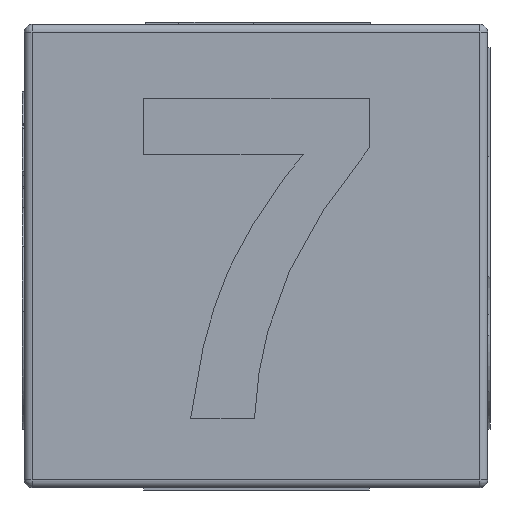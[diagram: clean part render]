
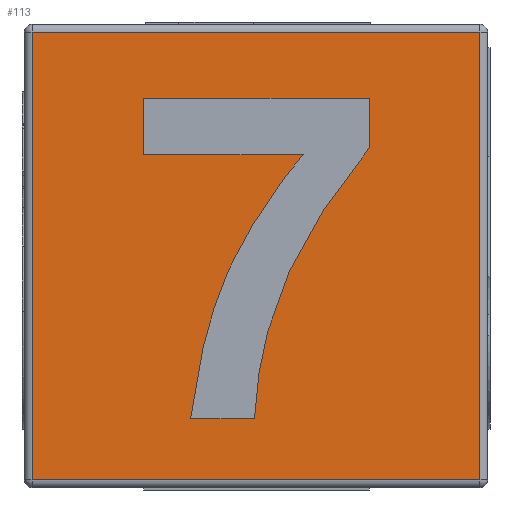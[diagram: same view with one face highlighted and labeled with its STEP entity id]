
A CAD part, left-side view. The second image highlights one B-rep face of the part: STEP entity #113.
In plain terms, the highlighted planar face has unit normal (-1, 0, 0).
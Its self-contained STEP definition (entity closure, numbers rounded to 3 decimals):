
#113 = ADVANCED_FACE('',(#114),#128,.F.);
#114 = FACE_BOUND('',#115,.F.);
#115 = EDGE_LOOP('',(#116,#151,#179,#207));
#116 = ORIENTED_EDGE('',*,*,#117,.F.);
#117 = EDGE_CURVE('',#118,#120,#122,.T.);
#118 = VERTEX_POINT('',#119);
#119 = CARTESIAN_POINT('',(-14.85,-14.35,-14.35));
#120 = VERTEX_POINT('',#121);
#121 = CARTESIAN_POINT('',(-14.85,-14.35,14.35));
#122 = SURFACE_CURVE('',#123,(#127,#139),.PCURVE_S1.);
#123 = LINE('',#124,#125);
#124 = CARTESIAN_POINT('',(-14.85,-14.35,-14.85));
#125 = VECTOR('',#126,1.);
#126 = DIRECTION('',(0.,0.,1.));
#127 = PCURVE('',#128,#133);
#128 = PLANE('',#129);
#129 = AXIS2_PLACEMENT_3D('',#130,#131,#132);
#130 = CARTESIAN_POINT('',(-14.85,-14.85,-14.85));
#131 = DIRECTION('',(1.,0.,0.));
#132 = DIRECTION('',(0.,0.,1.));
#133 = DEFINITIONAL_REPRESENTATION('',(#134),#138);
#134 = LINE('',#135,#136);
#135 = CARTESIAN_POINT('',(0.,-0.5));
#136 = VECTOR('',#137,1.);
#137 = DIRECTION('',(1.,0.));
#138 = ( GEOMETRIC_REPRESENTATION_CONTEXT(2) 
PARAMETRIC_REPRESENTATION_CONTEXT() REPRESENTATION_CONTEXT('2D SPACE',''
  ) );
#139 = PCURVE('',#140,#145);
#140 = CYLINDRICAL_SURFACE('',#141,0.5);
#141 = AXIS2_PLACEMENT_3D('',#142,#143,#144);
#142 = CARTESIAN_POINT('',(-14.35,-14.35,-14.85));
#143 = DIRECTION('',(0.,0.,1.));
#144 = DIRECTION('',(-1.,-0.,0.));
#145 = DEFINITIONAL_REPRESENTATION('',(#146),#150);
#146 = LINE('',#147,#148);
#147 = CARTESIAN_POINT('',(0.,0.));
#148 = VECTOR('',#149,1.);
#149 = DIRECTION('',(0.,1.));
#150 = ( GEOMETRIC_REPRESENTATION_CONTEXT(2) 
PARAMETRIC_REPRESENTATION_CONTEXT() REPRESENTATION_CONTEXT('2D SPACE',''
  ) );
#151 = ORIENTED_EDGE('',*,*,#152,.T.);
#152 = EDGE_CURVE('',#118,#153,#155,.T.);
#153 = VERTEX_POINT('',#154);
#154 = CARTESIAN_POINT('',(-14.85,14.35,-14.35));
#155 = SURFACE_CURVE('',#156,(#160,#167),.PCURVE_S1.);
#156 = LINE('',#157,#158);
#157 = CARTESIAN_POINT('',(-14.85,-14.85,-14.35));
#158 = VECTOR('',#159,1.);
#159 = DIRECTION('',(0.,1.,0.));
#160 = PCURVE('',#128,#161);
#161 = DEFINITIONAL_REPRESENTATION('',(#162),#166);
#162 = LINE('',#163,#164);
#163 = CARTESIAN_POINT('',(0.5,0.));
#164 = VECTOR('',#165,1.);
#165 = DIRECTION('',(0.,-1.));
#166 = ( GEOMETRIC_REPRESENTATION_CONTEXT(2) 
PARAMETRIC_REPRESENTATION_CONTEXT() REPRESENTATION_CONTEXT('2D SPACE',''
  ) );
#167 = PCURVE('',#168,#173);
#168 = CYLINDRICAL_SURFACE('',#169,0.5);
#169 = AXIS2_PLACEMENT_3D('',#170,#171,#172);
#170 = CARTESIAN_POINT('',(-14.35,-14.85,-14.35));
#171 = DIRECTION('',(0.,1.,0.));
#172 = DIRECTION('',(-1.,0.,0.));
#173 = DEFINITIONAL_REPRESENTATION('',(#174),#178);
#174 = LINE('',#175,#176);
#175 = CARTESIAN_POINT('',(-0.,0.));
#176 = VECTOR('',#177,1.);
#177 = DIRECTION('',(-0.,1.));
#178 = ( GEOMETRIC_REPRESENTATION_CONTEXT(2) 
PARAMETRIC_REPRESENTATION_CONTEXT() REPRESENTATION_CONTEXT('2D SPACE',''
  ) );
#179 = ORIENTED_EDGE('',*,*,#180,.T.);
#180 = EDGE_CURVE('',#153,#181,#183,.T.);
#181 = VERTEX_POINT('',#182);
#182 = CARTESIAN_POINT('',(-14.85,14.35,14.35));
#183 = SURFACE_CURVE('',#184,(#188,#195),.PCURVE_S1.);
#184 = LINE('',#185,#186);
#185 = CARTESIAN_POINT('',(-14.85,14.35,-14.85));
#186 = VECTOR('',#187,1.);
#187 = DIRECTION('',(0.,0.,1.));
#188 = PCURVE('',#128,#189);
#189 = DEFINITIONAL_REPRESENTATION('',(#190),#194);
#190 = LINE('',#191,#192);
#191 = CARTESIAN_POINT('',(0.,-29.2));
#192 = VECTOR('',#193,1.);
#193 = DIRECTION('',(1.,0.));
#194 = ( GEOMETRIC_REPRESENTATION_CONTEXT(2) 
PARAMETRIC_REPRESENTATION_CONTEXT() REPRESENTATION_CONTEXT('2D SPACE',''
  ) );
#195 = PCURVE('',#196,#201);
#196 = CYLINDRICAL_SURFACE('',#197,0.5);
#197 = AXIS2_PLACEMENT_3D('',#198,#199,#200);
#198 = CARTESIAN_POINT('',(-14.35,14.35,-14.85));
#199 = DIRECTION('',(0.,0.,1.));
#200 = DIRECTION('',(-1.,-0.,0.));
#201 = DEFINITIONAL_REPRESENTATION('',(#202),#206);
#202 = LINE('',#203,#204);
#203 = CARTESIAN_POINT('',(-0.,0.));
#204 = VECTOR('',#205,1.);
#205 = DIRECTION('',(-0.,1.));
#206 = ( GEOMETRIC_REPRESENTATION_CONTEXT(2) 
PARAMETRIC_REPRESENTATION_CONTEXT() REPRESENTATION_CONTEXT('2D SPACE',''
  ) );
#207 = ORIENTED_EDGE('',*,*,#208,.F.);
#208 = EDGE_CURVE('',#120,#181,#209,.T.);
#209 = SURFACE_CURVE('',#210,(#214,#221),.PCURVE_S1.);
#210 = LINE('',#211,#212);
#211 = CARTESIAN_POINT('',(-14.85,-14.85,14.35));
#212 = VECTOR('',#213,1.);
#213 = DIRECTION('',(0.,1.,0.));
#214 = PCURVE('',#128,#215);
#215 = DEFINITIONAL_REPRESENTATION('',(#216),#220);
#216 = LINE('',#217,#218);
#217 = CARTESIAN_POINT('',(29.2,0.));
#218 = VECTOR('',#219,1.);
#219 = DIRECTION('',(0.,-1.));
#220 = ( GEOMETRIC_REPRESENTATION_CONTEXT(2) 
PARAMETRIC_REPRESENTATION_CONTEXT() REPRESENTATION_CONTEXT('2D SPACE',''
  ) );
#221 = PCURVE('',#222,#227);
#222 = CYLINDRICAL_SURFACE('',#223,0.5);
#223 = AXIS2_PLACEMENT_3D('',#224,#225,#226);
#224 = CARTESIAN_POINT('',(-14.35,-14.85,14.35));
#225 = DIRECTION('',(0.,1.,0.));
#226 = DIRECTION('',(-1.,0.,0.));
#227 = DEFINITIONAL_REPRESENTATION('',(#228),#232);
#228 = LINE('',#229,#230);
#229 = CARTESIAN_POINT('',(0.,0.));
#230 = VECTOR('',#231,1.);
#231 = DIRECTION('',(0.,1.));
#232 = ( GEOMETRIC_REPRESENTATION_CONTEXT(2) 
PARAMETRIC_REPRESENTATION_CONTEXT() REPRESENTATION_CONTEXT('2D SPACE',''
  ) );
